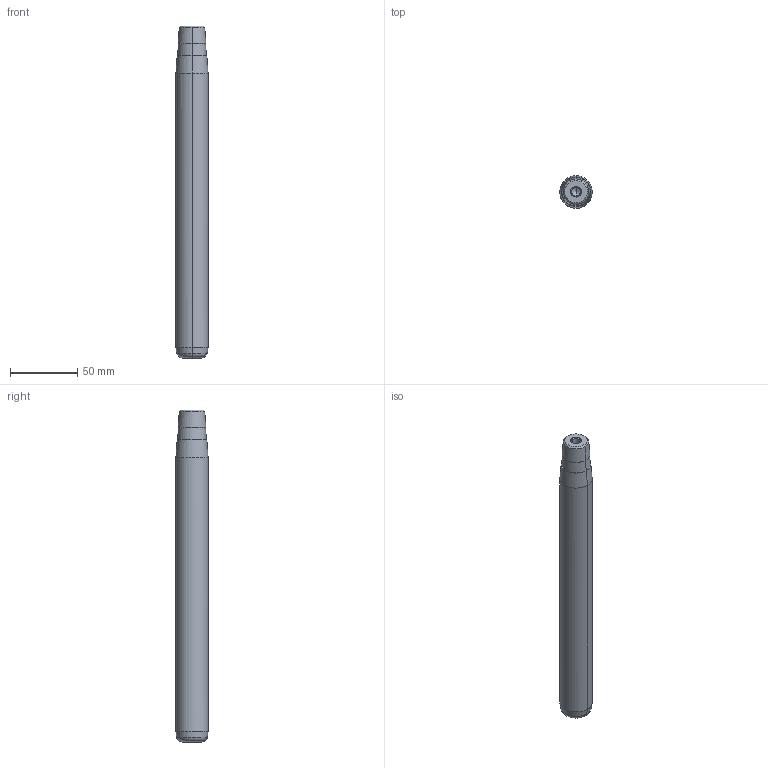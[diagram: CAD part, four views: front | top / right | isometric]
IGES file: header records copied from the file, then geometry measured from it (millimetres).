
Start section: START RECORD GO HERE.
Global section: file name: 722-24x224x247.igs; native system: DASSAULT SYSTEMES CATIA V5 R20 - www.3ds.com; preprocessor: CATIA Version 5 Release 20 ; author: Utente; organization: NB04-ASUS; date: 20210109.093139; units: millimetre
Bounding box: 24 x 24 x 247 mm (x, y, z)
Surface area: 19947.8 mm2 (no closed solid volume)
Topology: 0 solids, 0 shells, 32 faces, 192 edges, 188 vertices
Faces by surface type: revolution 30, plane 2
